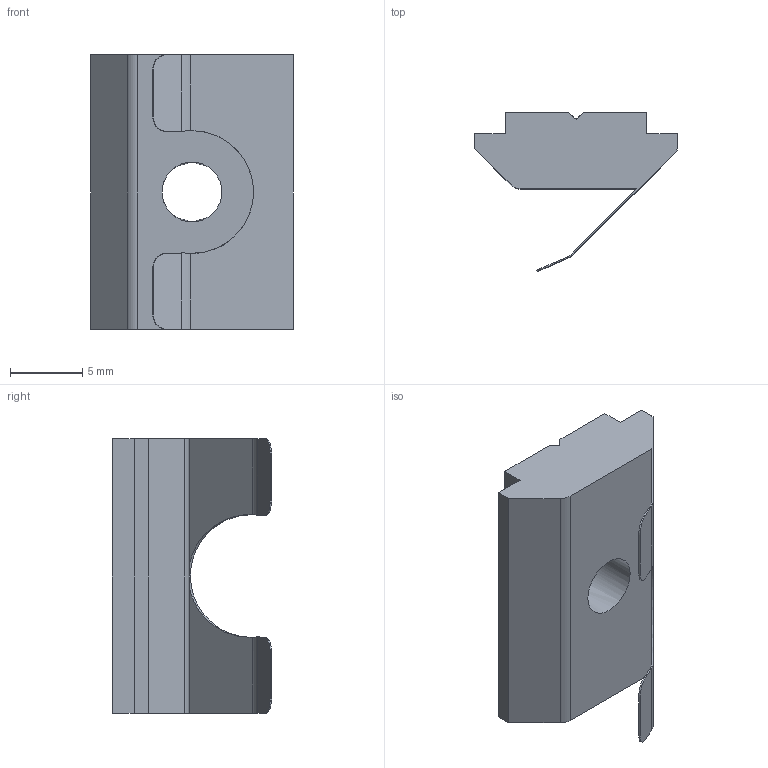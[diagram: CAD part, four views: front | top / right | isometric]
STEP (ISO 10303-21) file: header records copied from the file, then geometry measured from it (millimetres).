
FILE_DESCRIPTION((''),'2;1');
FILE_NAME('E:\catalogue and flyer\Profile catalogue 2015\Accessories JE info\Accessories-JE step file 31MAr16\JE-SN5-10.stp','2016-03-31T16:55:38',('h029'),(''),'Autodesk Inventor 11','Autodesk Inventor 11','');
FILE_SCHEMA(('AUTOMOTIVE_DESIGN { 1 0 10303 214 1 1 1 1 }'));
Length unit declared in the file: millimetre
Products named in the file (1): JE-SN5-10
Bounding box: 14 x 11 x 19 mm (x, y, z)
Volume: 1083.2 mm3; surface area: 1053.3 mm2
Topology: 1 solids, 1 shells, 44 faces, 124 edges, 81 vertices
Faces by surface type: plane 31, cylinder 10, cone 2, bspline 1
Entity records: 1459 total; most frequent: CARTESIAN_POINT 296, ORIENTED_EDGE 244, DIRECTION 231, EDGE_CURVE 122, VECTOR 85, LINE 85, VERTEX_POINT 80, AXIS2_PLACEMENT_3D 73
